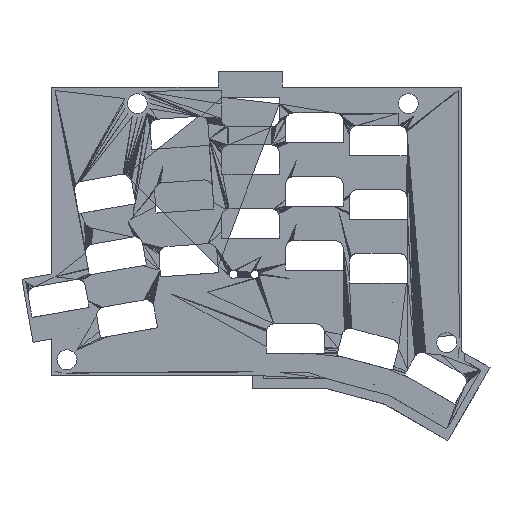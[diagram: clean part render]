
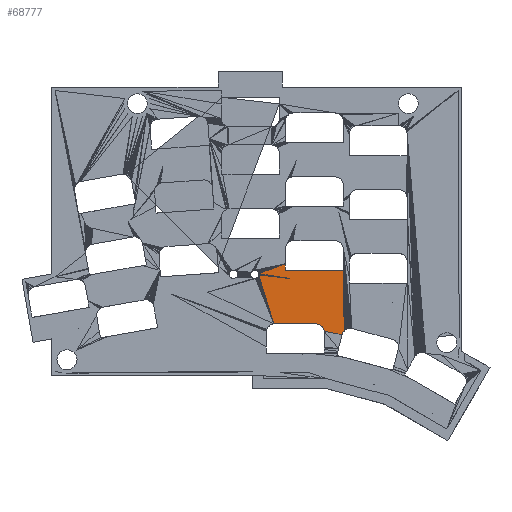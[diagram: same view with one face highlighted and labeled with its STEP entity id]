
A CAD part, top view. The second image highlights one B-rep face of the part: STEP entity #68777.
In plain terms, the highlighted planar face has unit normal (0, 0, 1).
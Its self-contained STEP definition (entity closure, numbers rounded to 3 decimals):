
#4334=FACE_OUTER_BOUND('',#8655,.T.);
#8655=EDGE_LOOP('',(#60124,#60125,#60126,#60127,#60128,#60129,#60130,#60131,
#60132,#60133,#60134,#60135,#60136,#60137,#60138,#60139,#60140,#60141,#60142,
#60143,#60144,#60145,#60146,#60147,#60148,#60149));
#8948=LINE('',#91618,#18258);
#15299=LINE('',#104269,#24609);
#15301=LINE('',#104272,#24611);
#15303=LINE('',#104277,#24613);
#15305=LINE('',#104280,#24615);
#15308=LINE('',#104286,#24618);
#15310=LINE('',#104289,#24620);
#15313=LINE('',#104295,#24623);
#15321=LINE('',#104311,#24631);
#15324=LINE('',#104317,#24634);
#15328=LINE('',#104325,#24638);
#15330=LINE('',#104328,#24640);
#15332=LINE('',#104332,#24642);
#15404=LINE('',#104475,#24714);
#15409=LINE('',#104485,#24719);
#15412=LINE('',#104491,#24722);
#16239=LINE('',#106097,#25549);
#17829=LINE('',#109309,#27139);
#17831=LINE('',#109312,#27141);
#17834=LINE('',#109319,#27144);
#17836=LINE('',#109322,#27146);
#17838=LINE('',#109327,#27148);
#17839=LINE('',#109329,#27149);
#17947=LINE('',#109566,#27257);
#17963=LINE('',#109598,#27273);
#17968=LINE('',#109608,#27278);
#18258=VECTOR('',#73417,1.);
#24609=VECTOR('',#85502,10.);
#24611=VECTOR('',#85506,1.);
#24613=VECTOR('',#85512,1.);
#24615=VECTOR('',#85516,1.);
#24618=VECTOR('',#85523,1.);
#24620=VECTOR('',#85527,1.);
#24623=VECTOR('',#85534,1.);
#24631=VECTOR('',#85548,1.);
#24634=VECTOR('',#85555,1.);
#24638=VECTOR('',#85563,1.);
#24640=VECTOR('',#85567,1.);
#24642=VECTOR('',#85573,1.);
#24714=VECTOR('',#85739,1.);
#24719=VECTOR('',#85750,1.);
#24722=VECTOR('',#85757,1.);
#25549=VECTOR('',#87848,10.);
#27139=VECTOR('',#90582,10.);
#27141=VECTOR('',#90586,10.);
#27144=VECTOR('',#90595,1.);
#27146=VECTOR('',#90599,1.);
#27148=VECTOR('',#90607,1.);
#27149=VECTOR('',#90610,1.);
#27257=VECTOR('',#90962,1.);
#27273=VECTOR('',#91010,1.);
#27278=VECTOR('',#91025,1.);
#27360=VERTEX_POINT('',#91205);
#27558=VERTEX_POINT('',#91617);
#28227=VERTEX_POINT('',#93050);
#30962=VERTEX_POINT('',#104059);
#30965=VERTEX_POINT('',#104074);
#30983=VERTEX_POINT('',#104240);
#30986=VERTEX_POINT('',#104250);
#30987=VERTEX_POINT('',#104254);
#30990=VERTEX_POINT('',#104261);
#30991=VERTEX_POINT('',#104267);
#30992=VERTEX_POINT('',#104275);
#30993=VERTEX_POINT('',#104284);
#30994=VERTEX_POINT('',#104293);
#30995=VERTEX_POINT('',#104297);
#30997=VERTEX_POINT('',#104303);
#31000=VERTEX_POINT('',#104315);
#31002=VERTEX_POINT('',#104323);
#31024=VERTEX_POINT('',#104467);
#31025=VERTEX_POINT('',#104471);
#31027=VERTEX_POINT('',#104479);
#31028=VERTEX_POINT('',#104483);
#31029=VERTEX_POINT('',#104489);
#31166=VERTEX_POINT('',#105995);
#31176=VERTEX_POINT('',#106096);
#32226=VERTEX_POINT('',#109308);
#32227=VERTEX_POINT('',#109318);
#32522=EDGE_CURVE('',#27558,#27360,#8948,.T.);
#38873=EDGE_CURVE('',#30986,#30991,#15299,.T.);
#38875=EDGE_CURVE('',#30991,#30990,#15301,.T.);
#38877=EDGE_CURVE('',#30990,#30992,#15303,.T.);
#38879=EDGE_CURVE('',#30992,#30987,#15305,.T.);
#38882=EDGE_CURVE('',#30987,#30993,#15308,.T.);
#38884=EDGE_CURVE('',#30993,#30983,#15310,.T.);
#38887=EDGE_CURVE('',#30983,#30994,#15313,.T.);
#38895=EDGE_CURVE('',#30994,#30997,#15321,.T.);
#38898=EDGE_CURVE('',#30997,#31000,#15324,.T.);
#38902=EDGE_CURVE('',#31000,#31002,#15328,.T.);
#38904=EDGE_CURVE('',#31002,#30995,#15330,.T.);
#38906=EDGE_CURVE('',#30995,#27558,#15332,.T.);
#38978=EDGE_CURVE('',#31024,#31025,#15404,.T.);
#38983=EDGE_CURVE('',#31028,#31027,#15409,.T.);
#38986=EDGE_CURVE('',#31029,#31028,#15412,.T.);
#39813=EDGE_CURVE('',#31176,#28227,#16239,.T.);
#41403=EDGE_CURVE('',#31166,#32226,#17829,.T.);
#41405=EDGE_CURVE('',#32226,#31176,#17831,.T.);
#41408=EDGE_CURVE('',#30965,#32227,#17834,.T.);
#41410=EDGE_CURVE('',#32227,#30962,#17836,.T.);
#41412=EDGE_CURVE('',#31027,#30986,#17838,.T.);
#41413=EDGE_CURVE('',#31025,#31029,#17839,.T.);
#41521=EDGE_CURVE('',#31024,#31166,#17947,.T.);
#41537=EDGE_CURVE('',#30962,#28227,#17963,.T.);
#41542=EDGE_CURVE('',#27360,#30965,#17968,.T.);
#60124=ORIENTED_EDGE('',*,*,#41542,.F.);
#60125=ORIENTED_EDGE('',*,*,#32522,.F.);
#60126=ORIENTED_EDGE('',*,*,#38906,.F.);
#60127=ORIENTED_EDGE('',*,*,#38904,.F.);
#60128=ORIENTED_EDGE('',*,*,#38902,.F.);
#60129=ORIENTED_EDGE('',*,*,#38898,.F.);
#60130=ORIENTED_EDGE('',*,*,#38895,.F.);
#60131=ORIENTED_EDGE('',*,*,#38887,.F.);
#60132=ORIENTED_EDGE('',*,*,#38884,.F.);
#60133=ORIENTED_EDGE('',*,*,#38882,.F.);
#60134=ORIENTED_EDGE('',*,*,#38879,.F.);
#60135=ORIENTED_EDGE('',*,*,#38877,.F.);
#60136=ORIENTED_EDGE('',*,*,#38875,.F.);
#60137=ORIENTED_EDGE('',*,*,#38873,.F.);
#60138=ORIENTED_EDGE('',*,*,#41412,.F.);
#60139=ORIENTED_EDGE('',*,*,#38983,.F.);
#60140=ORIENTED_EDGE('',*,*,#38986,.F.);
#60141=ORIENTED_EDGE('',*,*,#41413,.F.);
#60142=ORIENTED_EDGE('',*,*,#38978,.F.);
#60143=ORIENTED_EDGE('',*,*,#41521,.T.);
#60144=ORIENTED_EDGE('',*,*,#41403,.T.);
#60145=ORIENTED_EDGE('',*,*,#41405,.T.);
#60146=ORIENTED_EDGE('',*,*,#39813,.T.);
#60147=ORIENTED_EDGE('',*,*,#41537,.F.);
#60148=ORIENTED_EDGE('',*,*,#41410,.F.);
#60149=ORIENTED_EDGE('',*,*,#41408,.F.);
#64468=PLANE('',#73101);
#68777=ADVANCED_FACE('',(#4334),#64468,.T.);
#73101=AXIS2_PLACEMENT_3D('',#109609,#91026,#91027);
#73417=DIRECTION('',(-1.,-0.001,0.));
#85502=DIRECTION('',(-0.18,0.984,0.));
#85506=DIRECTION('',(-0.298,0.955,0.));
#85512=DIRECTION('',(-0.41,0.912,0.));
#85516=DIRECTION('',(-0.517,0.856,0.));
#85523=DIRECTION('',(-0.617,0.787,0.));
#85527=DIRECTION('',(-0.707,0.707,0.));
#85534=DIRECTION('',(-0.787,0.617,0.));
#85548=DIRECTION('',(-0.856,0.517,0.));
#85555=DIRECTION('',(-0.912,0.41,0.));
#85563=DIRECTION('',(-0.955,0.298,0.));
#85567=DIRECTION('',(-0.984,0.18,0.));
#85573=DIRECTION('',(-0.998,0.06,0.));
#85739=DIRECTION('',(-0.632,-0.775,0.));
#85750=DIRECTION('',(-0.317,-0.949,0.));
#85757=DIRECTION('',(-0.429,-0.903,0.));
#87848=DIRECTION('',(0.,1.,0.));
#90582=DIRECTION('',(0.,-1.,0.));
#90586=DIRECTION('',(-1.,0.,0.));
#90595=DIRECTION('',(0.994,-0.11,0.));
#90599=DIRECTION('',(-0.988,0.156,0.));
#90607=DIRECTION('',(-0.983,0.185,0.));
#90610=DIRECTION('',(-0.534,-0.845,0.));
#90962=DIRECTION('',(-0.013,1.,0.));
#91010=DIRECTION('',(0.936,0.352,0.));
#91025=DIRECTION('',(-0.292,0.957,0.));
#91026=DIRECTION('center_axis',(0.,0.,1.));
#91027=DIRECTION('ref_axis',(1.,0.,0.));
#91205=CARTESIAN_POINT('',(-51.487,5.569,1.8));
#91617=CARTESIAN_POINT('',(-38.989,5.588,1.8));
#91618=CARTESIAN_POINT('',(-38.989,5.588,1.8));
#93050=CARTESIAN_POINT('',(-48.056,23.495,1.8));
#104059=CARTESIAN_POINT('',(-55.919,20.537,1.8));
#104074=CARTESIAN_POINT('',(-55.919,20.103,1.8));
#104240=CARTESIAN_POINT('',(-37.305,4.949,1.8));
#104250=CARTESIAN_POINT('',(-36.468,3.354,1.8));
#104254=CARTESIAN_POINT('',(-36.899,4.491,1.8));
#104261=CARTESIAN_POINT('',(-36.614,3.949,1.8));
#104267=CARTESIAN_POINT('',(-36.523,3.656,1.8));
#104269=CARTESIAN_POINT('',(-35.146,-3.859,1.8));
#104272=CARTESIAN_POINT('',(-36.523,3.656,1.8));
#104275=CARTESIAN_POINT('',(-36.74,4.228,1.8));
#104277=CARTESIAN_POINT('',(-36.614,3.949,1.8));
#104280=CARTESIAN_POINT('',(-36.74,4.228,1.8));
#104284=CARTESIAN_POINT('',(-37.088,4.732,1.8));
#104286=CARTESIAN_POINT('',(-36.899,4.491,1.8));
#104289=CARTESIAN_POINT('',(-37.088,4.732,1.8));
#104293=CARTESIAN_POINT('',(-37.546,5.138,1.8));
#104295=CARTESIAN_POINT('',(-37.305,4.949,1.8));
#104297=CARTESIAN_POINT('',(-38.683,5.569,1.8));
#104303=CARTESIAN_POINT('',(-37.809,5.297,1.8));
#104311=CARTESIAN_POINT('',(-37.546,5.138,1.8));
#104315=CARTESIAN_POINT('',(-38.088,5.423,1.8));
#104317=CARTESIAN_POINT('',(-37.809,5.297,1.8));
#104323=CARTESIAN_POINT('',(-38.381,5.514,1.8));
#104325=CARTESIAN_POINT('',(-38.088,5.423,1.8));
#104328=CARTESIAN_POINT('',(-38.381,5.514,1.8));
#104332=CARTESIAN_POINT('',(-38.683,5.569,1.8));
#104467=CARTESIAN_POINT('',(-30.532,3.411,1.8));
#104471=CARTESIAN_POINT('',(-30.726,3.174,1.8));
#104475=CARTESIAN_POINT('',(-30.532,3.411,1.8));
#104479=CARTESIAN_POINT('',(-31.118,2.346,1.8));
#104483=CARTESIAN_POINT('',(-31.021,2.637,1.8));
#104485=CARTESIAN_POINT('',(-31.021,2.637,1.8));
#104489=CARTESIAN_POINT('',(-30.89,2.914,1.8));
#104491=CARTESIAN_POINT('',(-30.89,2.914,1.8));
#105995=CARTESIAN_POINT('',(-30.784,23.495,1.8));
#106096=CARTESIAN_POINT('',(-48.056,21.495,1.8));
#106097=CARTESIAN_POINT('',(-48.056,7.931,1.8));
#109308=CARTESIAN_POINT('',(-30.784,21.495,1.8));
#109309=CARTESIAN_POINT('',(-30.784,7.931,1.8));
#109312=CARTESIAN_POINT('',(-29.682,21.495,1.8));
#109318=CARTESIAN_POINT('',(-46.802,19.098,1.8));
#109319=CARTESIAN_POINT('',(-55.919,20.103,1.8));
#109322=CARTESIAN_POINT('',(-46.802,19.098,1.8));
#109327=CARTESIAN_POINT('',(-31.118,2.346,1.8));
#109329=CARTESIAN_POINT('',(-30.726,3.174,1.8));
#109566=CARTESIAN_POINT('',(-30.532,3.411,1.8));
#109598=CARTESIAN_POINT('',(-55.919,20.537,1.8));
#109608=CARTESIAN_POINT('',(-51.487,5.569,1.8));
#109609=CARTESIAN_POINT('Origin',(-13.813,-7.634,1.8));
